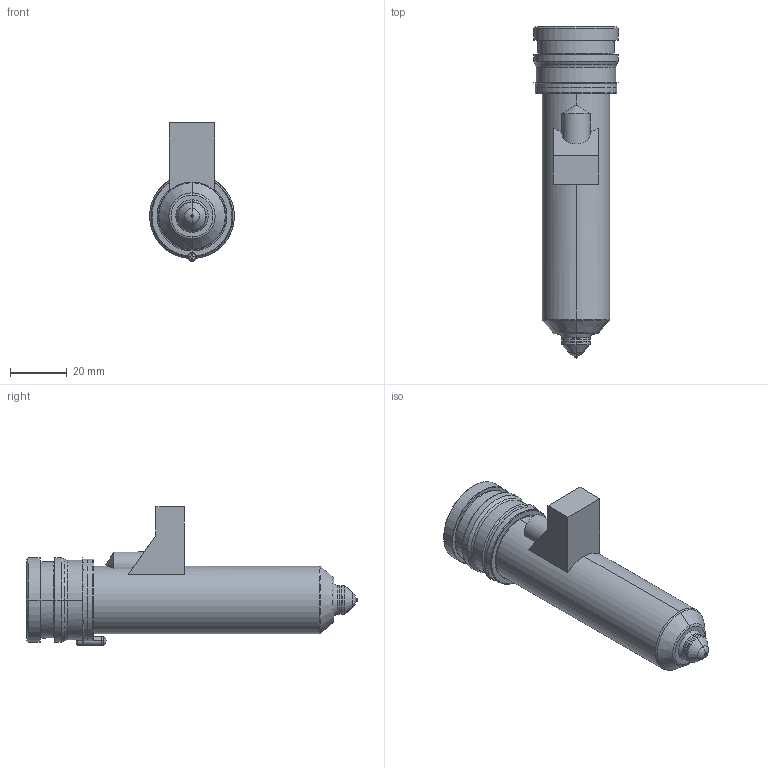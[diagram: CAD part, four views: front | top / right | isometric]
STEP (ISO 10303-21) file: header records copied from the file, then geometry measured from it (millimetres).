
FILE_DESCRIPTION((''),'2;1');
FILE_NAME('MPN-10-29-VX10-096-M','2026-02-05T12:56:45',('UPTIO'),('Thermoplay S.p.A.'),'CREO PARAMETRIC BY PTC INC, 2023494','CREO PARAMETRIC BY PTC INC, 2023494','');
FILE_SCHEMA(('CONFIG_CONTROL_DESIGN','SHAPE_APPEARANCE_LAYERS_GROUPS'));
Length unit declared in the file: millimetre
Products named in the file (1): MPN-10-29-VX10-096-M
Bounding box: 30 x 117.5 x 49 mm (x, y, z)
Volume: 37038.1 mm3; surface area: 38181.9 mm2
Topology: 3 solids, 5 shells, 547 faces, 1387 edges, 846 vertices
Faces by surface type: cylinder 179, plane 147, torus 71, bspline 70, cone 68, sphere 8, extrusion 4
Entity records: 27010 total; most frequent: CARTESIAN_POINT 11045, ORIENTED_EDGE 2760, DIRECTION 2638, EDGE_CURVE 1380, AXIS2_PLACEMENT_3D 1050, VERTEX_POINT 846, EDGE_LOOP 576, CIRCLE 576
